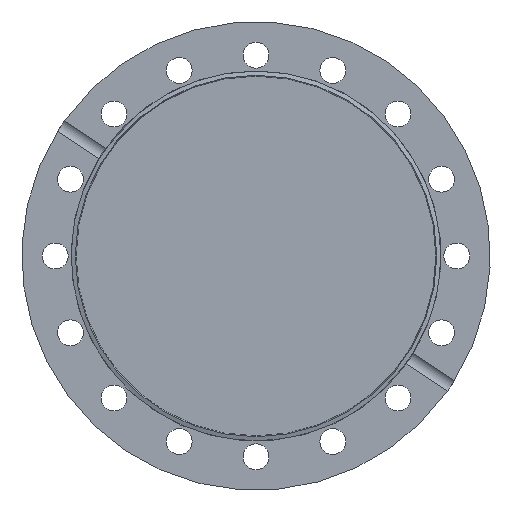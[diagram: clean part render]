
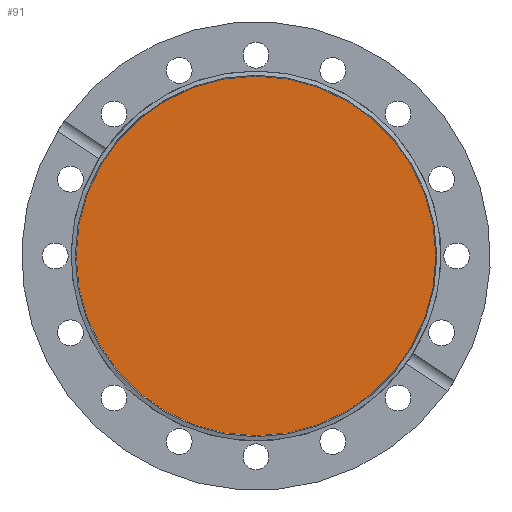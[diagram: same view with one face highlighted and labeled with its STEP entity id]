
A CAD part, left-side view. The second image highlights one B-rep face of the part: STEP entity #91.
In plain terms, the highlighted planar face has unit normal (-1, 0, 0).
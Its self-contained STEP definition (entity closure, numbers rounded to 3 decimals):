
#91 = ADVANCED_FACE( '', ( #226 ), #227, .F. );
#226 = FACE_OUTER_BOUND( '', #387, .T. );
#227 = PLANE( '', #388 );
#387 = EDGE_LOOP( '', ( #600 ) );
#388 = AXIS2_PLACEMENT_3D( '', #601, #602, #603 );
#600 = ORIENTED_EDGE( '', *, *, #781, .T. );
#601 = CARTESIAN_POINT( '', ( -18.6, 0., 58.335 ) );
#602 = DIRECTION( '', ( 1., 0., 0. ) );
#603 = DIRECTION( '', ( 0., 0., -1. ) );
#781 = EDGE_CURVE( '', #922, #922, #923, .T. );
#922 = VERTEX_POINT( '', #1197 );
#923 = CIRCLE( '', #1198, 58.335 );
#1197 = CARTESIAN_POINT( '', ( -18.6, 0., 58.335 ) );
#1198 = AXIS2_PLACEMENT_3D( '', #1369, #1370, #1371 );
#1369 = CARTESIAN_POINT( '', ( -18.6, 0., 0. ) );
#1370 = DIRECTION( '', ( -1., 0., 0. ) );
#1371 = DIRECTION( '', ( 0., 0., 1. ) );
